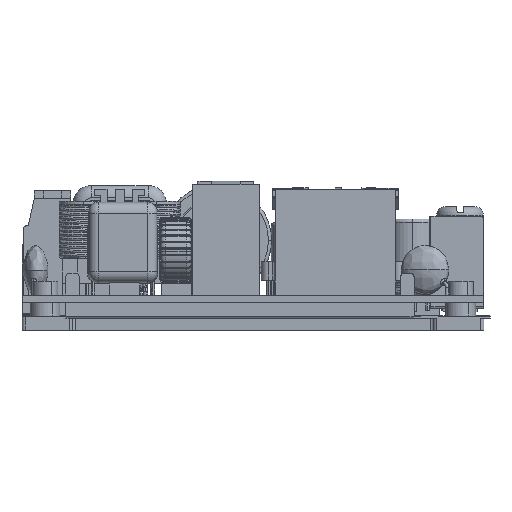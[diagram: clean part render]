
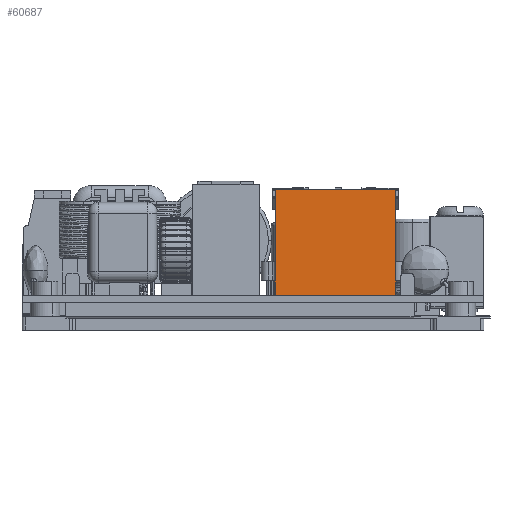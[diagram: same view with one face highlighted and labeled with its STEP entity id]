
A CAD part, top view. The second image highlights one B-rep face of the part: STEP entity #60687.
In plain terms, the highlighted planar face has unit normal (0, 0, 1).
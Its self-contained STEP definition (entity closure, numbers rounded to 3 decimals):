
#1555 = DIRECTION ( 'NONE',  ( 1., 0., 0. ) ) ;
#7303 = ORIENTED_EDGE ( 'NONE', *, *, #123624, .T. ) ;
#9513 = ORIENTED_EDGE ( 'NONE', *, *, #167566, .T. ) ;
#10268 = CARTESIAN_POINT ( 'NONE',  ( 13.666, 9.671, 152.032 ) ) ;
#13129 = VERTEX_POINT ( 'NONE', #57966 ) ;
#17287 = EDGE_CURVE ( 'NONE', #13129, #23841, #158899, .T. ) ;
#23841 = VERTEX_POINT ( 'NONE', #92490 ) ;
#26392 = CARTESIAN_POINT ( 'NONE',  ( -6.234, 9.671, 152.032 ) ) ;
#28064 = CARTESIAN_POINT ( 'NONE',  ( -6.234, -7.789, 152.032 ) ) ;
#31779 = VECTOR ( 'NONE', #138614, 1000. ) ;
#39023 = VECTOR ( 'NONE', #1555, 1000. ) ;
#39603 = PLANE ( 'NONE',  #125451 ) ;
#47956 = CARTESIAN_POINT ( 'NONE',  ( -6.234, 9.671, 152.032 ) ) ;
#53600 = LINE ( 'NONE', #162529, #133819 ) ;
#57283 = VECTOR ( 'NONE', #143994, 1000. ) ;
#57631 = CARTESIAN_POINT ( 'NONE',  ( -6.234, -7.789, 152.032 ) ) ;
#57966 = CARTESIAN_POINT ( 'NONE',  ( 13.666, 9.671, 152.032 ) ) ;
#60687 = ADVANCED_FACE ( 'NONE', ( #90634 ), #39603, .F. ) ;
#72719 = LINE ( 'NONE', #150935, #31779 ) ;
#80949 = VERTEX_POINT ( 'NONE', #47956 ) ;
#90634 = FACE_OUTER_BOUND ( 'NONE', #142801, .T. ) ;
#92490 = CARTESIAN_POINT ( 'NONE',  ( 13.666, -7.789, 152.032 ) ) ;
#118575 = ORIENTED_EDGE ( 'NONE', *, *, #17287, .F. ) ;
#123624 = EDGE_CURVE ( 'NONE', #163998, #23841, #148518, .T. ) ;
#125451 = AXIS2_PLACEMENT_3D ( 'NONE', #26392, #146004, #133712 ) ;
#125659 = EDGE_CURVE ( 'NONE', #80949, #13129, #72719, .T. ) ;
#133638 = DIRECTION ( 'NONE',  ( 0., -1., 0. ) ) ;
#133712 = DIRECTION ( 'NONE',  ( -1., 0., 0. ) ) ;
#133819 = VECTOR ( 'NONE', #133638, 1000. ) ;
#138614 = DIRECTION ( 'NONE',  ( 1., 0., 0. ) ) ;
#142801 = EDGE_LOOP ( 'NONE', ( #7303, #118575, #156149, #9513 ) ) ;
#143994 = DIRECTION ( 'NONE',  ( 0., -1., 0. ) ) ;
#146004 = DIRECTION ( 'NONE',  ( 0., 0., -1. ) ) ;
#148518 = LINE ( 'NONE', #28064, #39023 ) ;
#150935 = CARTESIAN_POINT ( 'NONE',  ( -6.234, 9.671, 152.032 ) ) ;
#156149 = ORIENTED_EDGE ( 'NONE', *, *, #125659, .F. ) ;
#158899 = LINE ( 'NONE', #10268, #57283 ) ;
#162529 = CARTESIAN_POINT ( 'NONE',  ( -6.234, 9.671, 152.032 ) ) ;
#163998 = VERTEX_POINT ( 'NONE', #57631 ) ;
#167566 = EDGE_CURVE ( 'NONE', #80949, #163998, #53600, .T. ) ;
